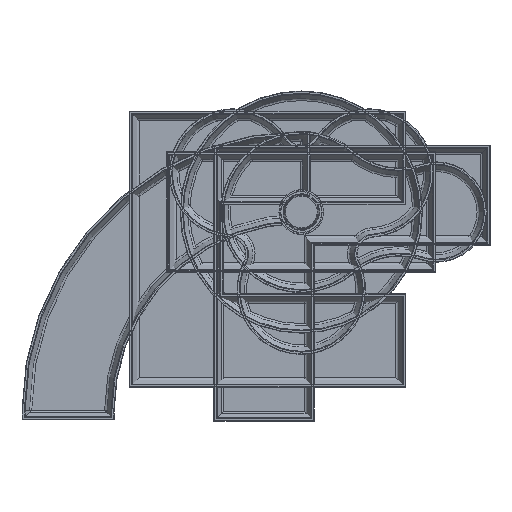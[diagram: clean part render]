
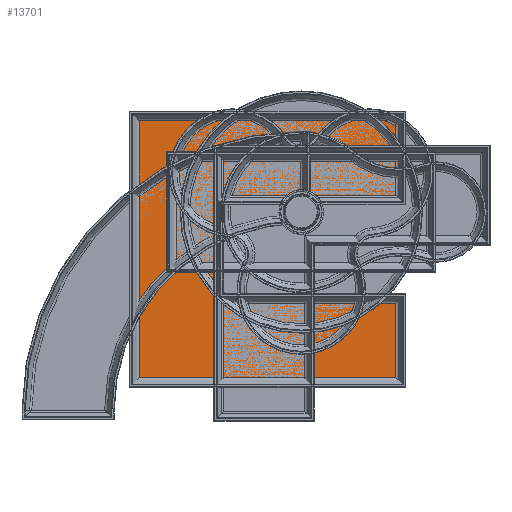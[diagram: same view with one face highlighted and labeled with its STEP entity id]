
A CAD part, top view. The second image highlights one B-rep face of the part: STEP entity #13701.
In plain terms, the highlighted planar face has unit normal (0, 0, 1).
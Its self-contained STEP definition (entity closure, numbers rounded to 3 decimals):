
#813=PLANE('',#14606);
#1452=FACE_OUTER_BOUND('',#2249,.T.);
#2249=EDGE_LOOP('',(#9831,#9832,#9833,#9834,#9835,#9836,#9837,#9838));
#3670=LINE('',#21338,#4741);
#3689=LINE('',#21397,#4760);
#3704=LINE('',#21437,#4775);
#3719=LINE('',#21477,#4790);
#3744=LINE('',#21542,#4815);
#3762=LINE('',#21592,#4833);
#3777=LINE('',#21632,#4848);
#3779=LINE('',#21636,#4850);
#4741=VECTOR('',#16629,10.);
#4760=VECTOR('',#16686,10.);
#4775=VECTOR('',#16729,10.);
#4790=VECTOR('',#16772,10.);
#4815=VECTOR('',#16841,10.);
#4833=VECTOR('',#16895,10.);
#4848=VECTOR('',#16938,10.);
#4850=VECTOR('',#16944,10.);
#5772=VERTEX_POINT('',#21336);
#5773=VERTEX_POINT('',#21337);
#5794=VERTEX_POINT('',#21396);
#5805=VERTEX_POINT('',#21436);
#5816=VERTEX_POINT('',#21476);
#5834=VERTEX_POINT('',#21540);
#5848=VERTEX_POINT('',#21590);
#5859=VERTEX_POINT('',#21630);
#7198=EDGE_CURVE('',#5772,#5773,#3670,.T.);
#7227=EDGE_CURVE('',#5794,#5772,#3689,.T.);
#7247=EDGE_CURVE('',#5805,#5794,#3704,.T.);
#7267=EDGE_CURVE('',#5816,#5805,#3719,.T.);
#7300=EDGE_CURVE('',#5834,#5816,#3744,.T.);
#7325=EDGE_CURVE('',#5848,#5834,#3762,.T.);
#7345=EDGE_CURVE('',#5859,#5848,#3777,.T.);
#7347=EDGE_CURVE('',#5773,#5859,#3779,.T.);
#9831=ORIENTED_EDGE('',*,*,#7198,.F.);
#9832=ORIENTED_EDGE('',*,*,#7227,.F.);
#9833=ORIENTED_EDGE('',*,*,#7247,.F.);
#9834=ORIENTED_EDGE('',*,*,#7267,.F.);
#9835=ORIENTED_EDGE('',*,*,#7300,.F.);
#9836=ORIENTED_EDGE('',*,*,#7325,.F.);
#9837=ORIENTED_EDGE('',*,*,#7345,.F.);
#9838=ORIENTED_EDGE('',*,*,#7347,.F.);
#13701=ADVANCED_FACE('',(#1452),#813,.T.);
#14606=AXIS2_PLACEMENT_3D('',#21656,#16973,#16974);
#16629=DIRECTION('',(1.,0.,0.));
#16686=DIRECTION('',(0.,1.,0.));
#16729=DIRECTION('',(-1.,0.,0.));
#16772=DIRECTION('',(0.,-1.,0.));
#16841=DIRECTION('',(1.,0.,0.));
#16895=DIRECTION('',(0.,-1.,0.));
#16938=DIRECTION('',(-1.,0.,0.));
#16944=DIRECTION('',(0.,-1.,0.));
#16973=DIRECTION('center_axis',(0.,0.,1.));
#16974=DIRECTION('ref_axis',(0.,-1.,0.));
#21336=CARTESIAN_POINT('',(-120.011,67.511,2.));
#21337=CARTESIAN_POINT('',(70.011,67.511,2.));
#21338=CARTESIAN_POINT('',(0.,67.511,2.));
#21396=CARTESIAN_POINT('',(-120.011,-122.511,2.));
#21397=CARTESIAN_POINT('',(-120.011,-120.,2.));
#21436=CARTESIAN_POINT('',(70.011,-122.511,2.));
#21437=CARTESIAN_POINT('',(67.5,-122.511,2.));
#21476=CARTESIAN_POINT('',(70.011,-67.489,2.));
#21477=CARTESIAN_POINT('',(70.011,-70.,2.));
#21540=CARTESIAN_POINT('',(-64.989,-67.489,2.));
#21542=CARTESIAN_POINT('',(-67.5,-67.489,2.));
#21590=CARTESIAN_POINT('',(-64.989,12.489,2.));
#21592=CARTESIAN_POINT('',(-64.989,15.,2.));
#21630=CARTESIAN_POINT('',(70.011,12.489,2.));
#21632=CARTESIAN_POINT('',(67.5,12.489,2.));
#21636=CARTESIAN_POINT('',(70.011,65.,2.));
#21656=CARTESIAN_POINT('Origin',(0.,67.511,2.));
